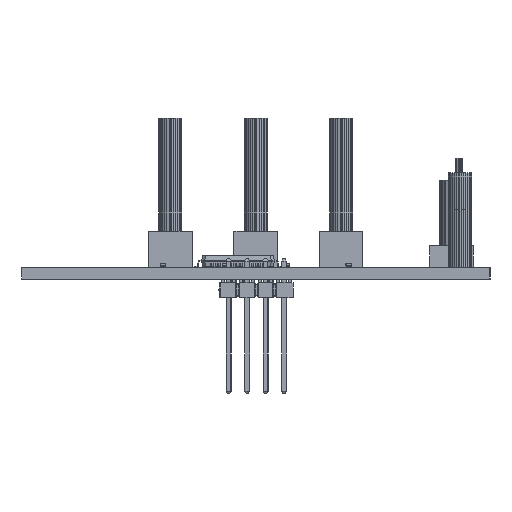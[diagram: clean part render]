
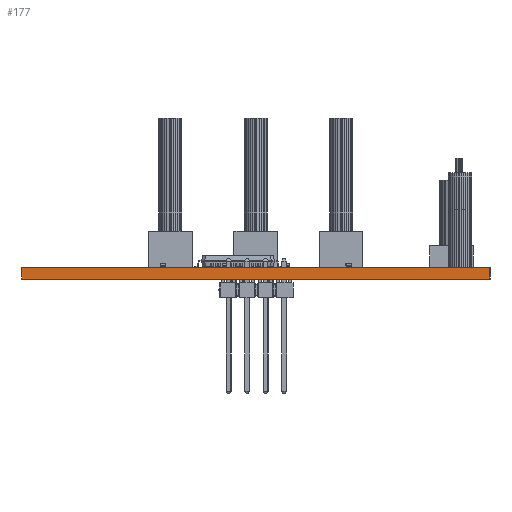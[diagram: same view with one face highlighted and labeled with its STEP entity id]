
A CAD part, left-side view. The second image highlights one B-rep face of the part: STEP entity #177.
In plain terms, the highlighted planar face has unit normal (-1, 0, 0).
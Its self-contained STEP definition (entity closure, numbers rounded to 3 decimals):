
#177 = ADVANCED_FACE('',(#178),#212,.T.);
#178 = FACE_BOUND('',#179,.T.);
#179 = EDGE_LOOP('',(#180,#190,#198,#206));
#180 = ORIENTED_EDGE('',*,*,#181,.T.);
#181 = EDGE_CURVE('',#182,#184,#186,.T.);
#182 = VERTEX_POINT('',#183);
#183 = CARTESIAN_POINT('',(-2.17,-62.1,0.));
#184 = VERTEX_POINT('',#185);
#185 = CARTESIAN_POINT('',(-2.17,-62.1,1.601));
#186 = LINE('',#187,#188);
#187 = CARTESIAN_POINT('',(-2.17,-62.1,0.));
#188 = VECTOR('',#189,1.);
#189 = DIRECTION('',(0.,0.,1.));
#190 = ORIENTED_EDGE('',*,*,#191,.T.);
#191 = EDGE_CURVE('',#184,#192,#194,.T.);
#192 = VERTEX_POINT('',#193);
#193 = CARTESIAN_POINT('',(-2.17,2.3,1.601));
#194 = LINE('',#195,#196);
#195 = CARTESIAN_POINT('',(-2.17,-62.1,1.601));
#196 = VECTOR('',#197,1.);
#197 = DIRECTION('',(0.,1.,0.));
#198 = ORIENTED_EDGE('',*,*,#199,.F.);
#199 = EDGE_CURVE('',#200,#192,#202,.T.);
#200 = VERTEX_POINT('',#201);
#201 = CARTESIAN_POINT('',(-2.17,2.3,0.));
#202 = LINE('',#203,#204);
#203 = CARTESIAN_POINT('',(-2.17,2.3,0.));
#204 = VECTOR('',#205,1.);
#205 = DIRECTION('',(0.,0.,1.));
#206 = ORIENTED_EDGE('',*,*,#207,.F.);
#207 = EDGE_CURVE('',#182,#200,#208,.T.);
#208 = LINE('',#209,#210);
#209 = CARTESIAN_POINT('',(-2.17,-62.1,0.));
#210 = VECTOR('',#211,1.);
#211 = DIRECTION('',(0.,1.,0.));
#212 = PLANE('',#213);
#213 = AXIS2_PLACEMENT_3D('',#214,#215,#216);
#214 = CARTESIAN_POINT('',(-2.17,-62.1,0.));
#215 = DIRECTION('',(-1.,0.,0.));
#216 = DIRECTION('',(0.,1.,0.));
